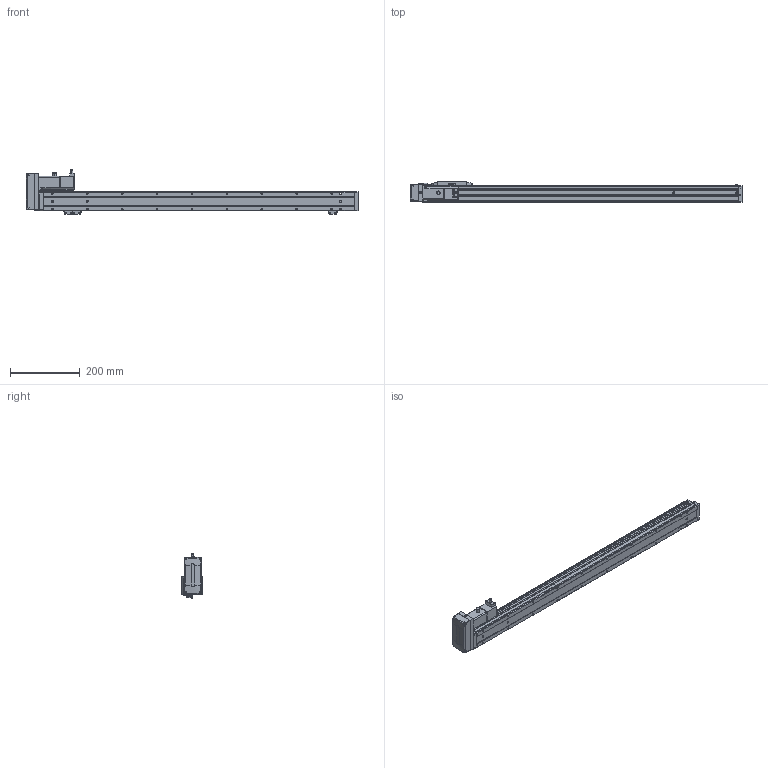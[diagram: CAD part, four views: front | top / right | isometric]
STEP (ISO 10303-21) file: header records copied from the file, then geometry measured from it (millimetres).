
FILE_DESCRIPTION (( 'STEP AP203' ), '1' );
FILE_NAME ('CTH5-L10-S750-BL-C10(¼ò).STEP', '2023-02-04T02:13:43', ( '' ), ( '' ), 'SwSTEP 2.0', 'SolidWorks 2018', '' );
FILE_SCHEMA (( 'CONFIG_CONTROL_DESIGN' ));
Length unit declared in the file: millimetre
Products named in the file (21): 100W萇儂; M3｡｣; CTH100W假蚾啣; CTH5-BL-T10_body5; CTH5覜茼え; PM-Y45; 葩璃 蚾饜极13^CTH8-L10-S50-BM-C40(潠)1; CTH5賑怢-2; CTH5-L10-S750-BL-C10(潠); hex nuts, style 1-grades ab gb_GB_FASTENER_NUT_SNAB1 M3-N; T10-p1; CTH5綴耜啣; CTH5耜晚蹟隊; CTH5耜晚蹟隊-1; 嫖萇羲壽郪磁1; 内六角圆柱头螺钉M3-2; CTH嫖萇羲壽假蚾啣; CTH5菁釱-L890; CTH5ヶ耜啣(潠); CTH5耜蚾欶; CTH5耜蚾蟀諉啣(潠)
Assembly tree (35 placements, depth 3):
  CTH5-L10-S750-BL-C10(潠)
    CTH5綴耜啣
    CTH5賑怢-2
    CTH5ヶ耜啣(潠)
    CTH5菁釱-L890
    CTH5耜晚蹟隊  x2
    CTH5覜茼え
    CTH5耜晚蹟隊-1  x3
    CTH5耜蚾蟀諉啣(潠)
    CTH5耜蚾欶
      CTH5-BL-T10_body5
    100W萇儂
      T10-p1
    CTH100W假蚾啣
    葩璃 蚾饜极13^CTH8-L10-S50-BM-C40(潠)1  x2
      CTH嫖萇羲壽假蚾啣
      PM-Y45
      内六角圆柱头螺钉M3-2
      M3｡｣
      hex nuts, style 1-grades ab gb_GB_FASTENER_NUT_SNAB1 M3-N
    嫖萇羲壽郪磁1
      CTH嫖萇羲壽假蚾啣
      PM-Y45
      M3｡｣  x2
      内六角圆柱头螺钉M3-2  x2
      hex nuts, style 1-grades ab gb_GB_FASTENER_NUT_SNAB1 M3-N  x2
Bounding box: 950 x 60 x 126.31 mm (x, y, z)
Volume: 2281626 mm3; surface area: 314836.6 mm2
Topology: 38 solids, 38 shells, 1632 faces, 4111 edges, 2648 vertices
Faces by surface type: plane 881, cylinder 480, cone 215, torus 38, bspline 18
Entity records: 38532 total; most frequent: CARTESIAN_POINT 7165, DIRECTION 6133, ORIENTED_EDGE 5894, EDGE_CURVE 2947, AXIS2_PLACEMENT_3D 2123, VERTEX_POINT 1892, VECTOR 1887, LINE 1887
